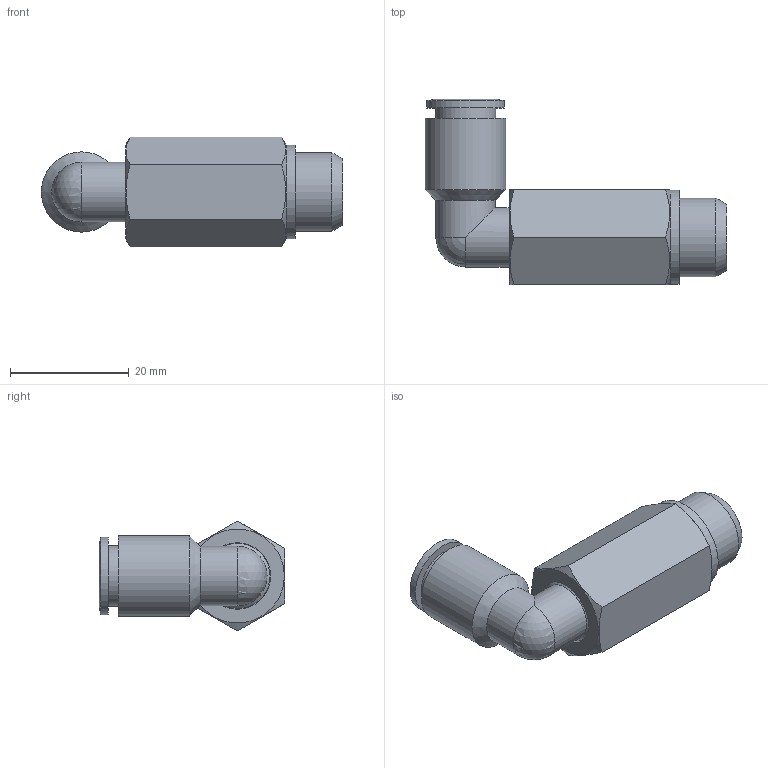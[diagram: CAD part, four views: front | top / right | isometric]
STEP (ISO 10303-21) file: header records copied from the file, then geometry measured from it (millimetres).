
FILE_DESCRIPTION((''),'2;1');
FILE_NAME('C:\Documents and Settings\rivolro1\Documenti\copia di Raccordi\PLASTICA\T22LXXXX\T22L0814.stp','2007-11-02T14:17:40',('Rivolro1'),(''),'Autodesk Inventor 2008','Autodesk Inventor 2008','');
FILE_SCHEMA(('AUTOMOTIVE_DESIGN { 1 0 10303 214 1 1 1 1 }'));
Length unit declared in the file: millimetre
Products named in the file (1): T22L0814
Bounding box: 50.65 x 31.25 x 18.48 mm (x, y, z)
Volume: 8306.6 mm3; surface area: 5021 mm2
Topology: 1 solids, 1 shells, 37 faces, 84 edges, 51 vertices
Faces by surface type: plane 14, cylinder 12, cone 6, bspline 4, sphere 1
Full cylindrical faces by diameter (mm): 6 x1, 6.2 x1, 10 x2, 10.1 x1, 11 x1, 11.2 x1, 13 x1, 13.2 x1, 13.5 x1, 15.8 x1
Entity records: 1069 total; most frequent: CARTESIAN_POINT 310, DIRECTION 142, ORIENTED_EDGE 112, AXIS2_PLACEMENT_3D 66, EDGE_LOOP 63, EDGE_CURVE 56, VERTEX_POINT 45, FACE_OUTER_BOUND 37
